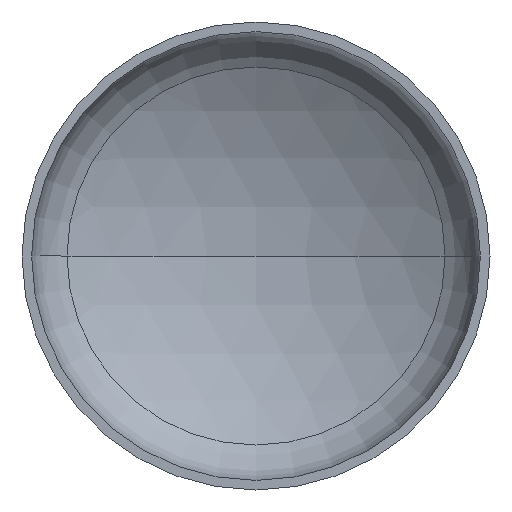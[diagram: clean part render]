
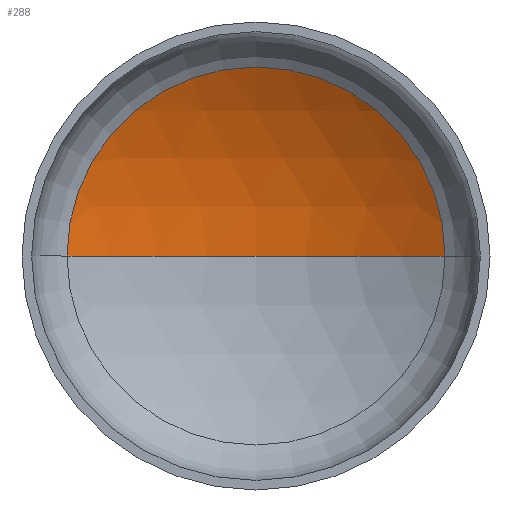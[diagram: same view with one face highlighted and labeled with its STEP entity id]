
A CAD part, front view. The second image highlights one B-rep face of the part: STEP entity #288.
In plain terms, the highlighted spherical face has radius 1520 mm.
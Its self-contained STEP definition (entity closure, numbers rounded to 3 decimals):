
#9 = ORIENTED_EDGE ( 'NONE', *, *, #358, .T. ) ;
#10 = AXIS2_PLACEMENT_3D ( 'NONE', #282, #185, #186 ) ;
#11 = ORIENTED_EDGE ( 'NONE', *, *, #395, .F. ) ;
#16 = DIRECTION ( 'NONE',  ( 1., 0., 0. ) ) ;
#17 = EDGE_LOOP ( 'NONE', ( #11, #37, #9 ) ) ;
#20 = VERTEX_POINT ( 'NONE', #301 ) ;
#22 = AXIS2_PLACEMENT_3D ( 'NONE', #180, #182, #190 ) ;
#37 = ORIENTED_EDGE ( 'NONE', *, *, #365, .T. ) ;
#54 = AXIS2_PLACEMENT_3D ( 'NONE', #212, #306, #239 ) ;
#69 = VERTEX_POINT ( 'NONE', #298 ) ;
#134 = VERTEX_POINT ( 'NONE', #219 ) ;
#144 = DIRECTION ( 'NONE',  ( 0., 0., 1. ) ) ;
#146 = SPHERICAL_SURFACE ( 'NONE', #54, 1520. ) ;
#180 = CARTESIAN_POINT ( 'NONE',  ( 0., 370.325, 0. ) ) ;
#182 = DIRECTION ( 'NONE',  ( 0., -1., 0. ) ) ;
#185 = DIRECTION ( 'NONE',  ( 0., 0., -1. ) ) ;
#186 = DIRECTION ( 'NONE',  ( -1., 0., 0. ) ) ;
#190 = DIRECTION ( 'NONE',  ( 1., 0., 0. ) ) ;
#212 = CARTESIAN_POINT ( 'NONE',  ( 0., -941.725, 0. ) ) ;
#219 = CARTESIAN_POINT ( 'NONE',  ( 0., 578.275, 0. ) ) ;
#239 = DIRECTION ( 'NONE',  ( -1., 0., 0. ) ) ;
#247 = CIRCLE ( 'NONE', #248, 1520. ) ;
#248 = AXIS2_PLACEMENT_3D ( 'NONE', #252, #144, #16 ) ;
#252 = CARTESIAN_POINT ( 'NONE',  ( 0., -941.725, 0. ) ) ;
#261 = CIRCLE ( 'NONE', #10, 1520. ) ;
#276 = FACE_OUTER_BOUND ( 'NONE', #17, .T. ) ;
#282 = CARTESIAN_POINT ( 'NONE',  ( 0., -941.725, 0. ) ) ;
#288 = ADVANCED_FACE ( 'NONE', ( #276 ), #146, .F. ) ;
#298 = CARTESIAN_POINT ( 'NONE',  ( 767.415, 370.325, 0. ) ) ;
#301 = CARTESIAN_POINT ( 'NONE',  ( -767.415, 370.325, 0. ) ) ;
#306 = DIRECTION ( 'NONE',  ( 0., 0., -1. ) ) ;
#358 = EDGE_CURVE ( 'NONE', #69, #20, #374, .T. ) ;
#365 = EDGE_CURVE ( 'NONE', #134, #69, #261, .T. ) ;
#374 = CIRCLE ( 'NONE', #22, 767.415 ) ;
#395 = EDGE_CURVE ( 'NONE', #134, #20, #247, .T. ) ;
